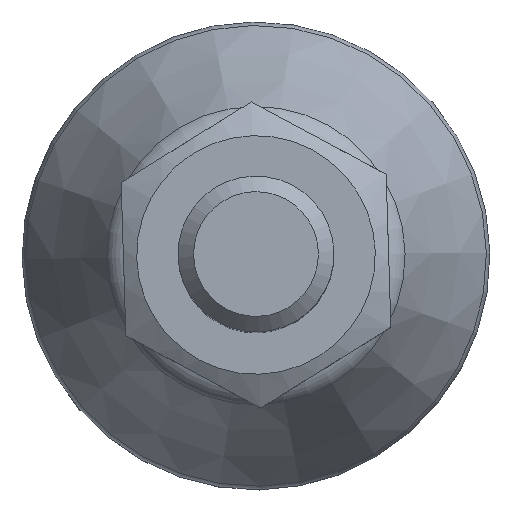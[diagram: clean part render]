
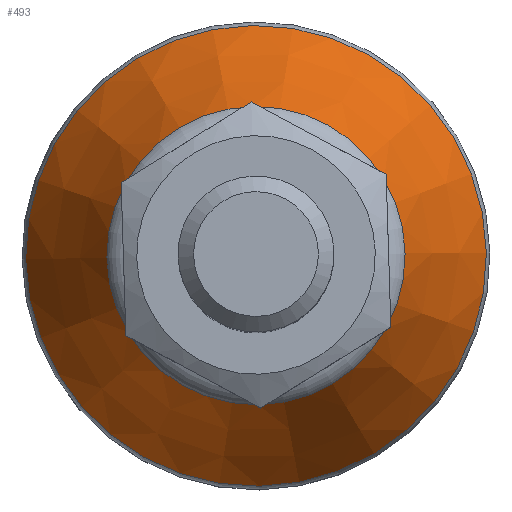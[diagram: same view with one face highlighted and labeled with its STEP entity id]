
A CAD part, top view. The second image highlights one B-rep face of the part: STEP entity #493.
In plain terms, the highlighted conical face has half-angle 27.553 degrees and reference radius 12.167 mm.
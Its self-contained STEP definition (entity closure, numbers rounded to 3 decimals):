
#459=CARTESIAN_POINT('',(9.561,16.925,0.0));
#460=VERTEX_POINT('',#459);
#461=CARTESIAN_POINT('',(0.,16.925,0.0));
#462=DIRECTION('',(0.0,-1.0,0.0));
#463=DIRECTION('',(1.0,0.0,0.0));
#464=AXIS2_PLACEMENT_3D('',#461,#462,#463);
#465=CIRCLE('',#464,9.561);
#466=EDGE_CURVE('',#460,#460,#465,.T.);
#474=CARTESIAN_POINT('',(0.,11.93,0.0));
#475=DIRECTION('',(0.,-1.0,0.0));
#476=DIRECTION('',(1.0,0.0,0.0));
#477=AXIS2_PLACEMENT_3D('',#474,#475,#476);
#478=CONICAL_SURFACE('',#477,12.167,27.553);
#479=CARTESIAN_POINT('',(14.773,6.935,0.0));
#480=VERTEX_POINT('',#479);
#481=CARTESIAN_POINT('',(0.,6.935,0.0));
#482=DIRECTION('',(0.0,-1.0,0.0));
#483=DIRECTION('',(1.0,0.0,0.0));
#484=AXIS2_PLACEMENT_3D('',#481,#482,#483);
#485=CIRCLE('',#484,14.773);
#486=EDGE_CURVE('',#480,#480,#485,.T.);
#487=ORIENTED_EDGE('',*,*,#486,.F.);
#488=EDGE_LOOP('',(#487));
#489=FACE_OUTER_BOUND('',#488,.T.);
#490=ORIENTED_EDGE('',*,*,#466,.T.);
#491=EDGE_LOOP('',(#490));
#492=FACE_BOUND('',#491,.T.);
#493=ADVANCED_FACE('',(#489,#492),#478,.T.);
